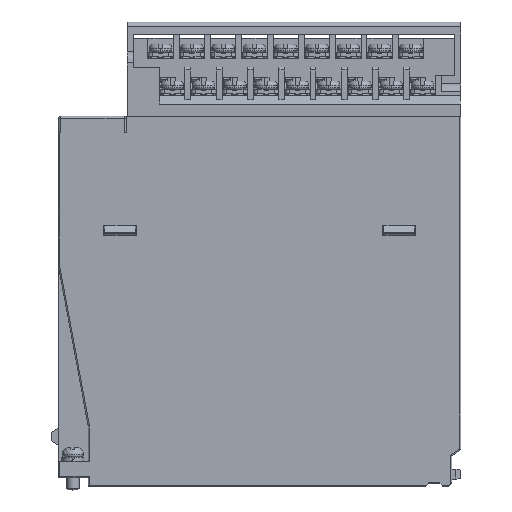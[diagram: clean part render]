
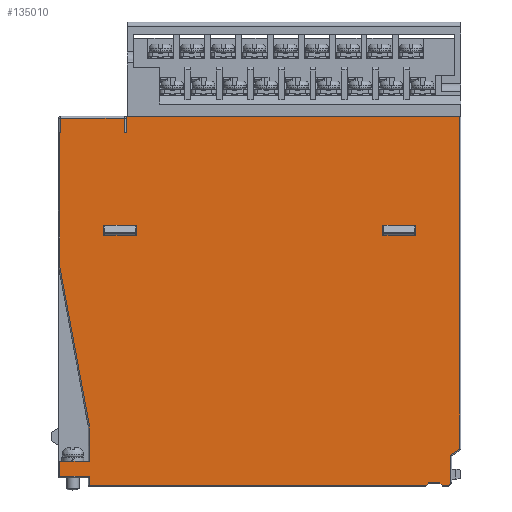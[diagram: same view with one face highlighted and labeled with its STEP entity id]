
A CAD part, top view. The second image highlights one B-rep face of the part: STEP entity #135010.
In plain terms, the highlighted planar face has unit normal (0, 0, 1).
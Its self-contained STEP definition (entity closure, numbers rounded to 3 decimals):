
#7883=DIRECTION('',(-1.,0.,0.));
#7884=VECTOR('',#7883,81.2);
#7885=CARTESIAN_POINT('',(48.7,90.,13.5));
#7886=LINE('',#7885,#7884);
#36934=DIRECTION('',(0.,1.,0.));
#36935=VECTOR('',#36934,81.041);
#36936=CARTESIAN_POINT('',(48.7,8.959,13.5));
#36937=LINE('',#36936,#36935);
#36942=DIRECTION('',(-0.826,-0.563,0.));
#36943=VECTOR('',#36942,2.663);
#36944=CARTESIAN_POINT('',(48.7,8.959,13.5));
#36945=LINE('',#36944,#36943);
#36946=DIRECTION('',(-0.707,-0.707,0.));
#36947=VECTOR('',#36946,0.707);
#36948=CARTESIAN_POINT('',(46.5,0.5,13.5));
#36949=LINE('',#36948,#36947);
#36950=DIRECTION('',(-1.,0.,0.));
#36951=VECTOR('',#36950,1.5);
#36952=CARTESIAN_POINT('',(46.,0.,13.5));
#36953=LINE('',#36952,#36951);
#36954=DIRECTION('',(-0.68,0.733,0.));
#36955=VECTOR('',#36954,0.955);
#36956=CARTESIAN_POINT('',(44.5,0.,13.5));
#36957=LINE('',#36956,#36955);
#36958=DIRECTION('',(-0.68,-0.733,0.));
#36959=VECTOR('',#36958,0.955);
#36960=CARTESIAN_POINT('',(41.15,0.7,13.5));
#36961=LINE('',#36960,#36959);
#36962=DIRECTION('',(-1.,0.,0.));
#36963=VECTOR('',#36962,82.);
#36964=CARTESIAN_POINT('',(40.5,0.,13.5));
#36965=LINE('',#36964,#36963);
#36966=DIRECTION('',(1.,0.,0.));
#36967=VECTOR('',#36966,7.2);
#36968=CARTESIAN_POINT('',(-48.7,6.,13.5));
#36969=LINE('',#36968,#36967);
#36970=DIRECTION('',(-0.183,0.983,0.));
#36971=VECTOR('',#36970,39.364);
#36972=CARTESIAN_POINT('',(-41.5,14.828,13.5));
#36973=LINE('',#36972,#36971);
#36974=DIRECTION('',(-1.,0.,0.));
#36975=VECTOR('',#36974,8.);
#36976=CARTESIAN_POINT('',(-30.,63.5,13.5));
#36977=LINE('',#36976,#36975);
#36978=DIRECTION('',(0.,-1.,0.));
#36979=VECTOR('',#36978,2.5);
#36980=CARTESIAN_POINT('',(-38.,63.5,13.5));
#36981=LINE('',#36980,#36979);
#36982=DIRECTION('',(1.,0.,0.));
#36983=VECTOR('',#36982,8.);
#36984=CARTESIAN_POINT('',(-38.,61.,13.5));
#36985=LINE('',#36984,#36983);
#36986=DIRECTION('',(0.,1.,0.));
#36987=VECTOR('',#36986,2.5);
#36988=CARTESIAN_POINT('',(-30.,61.,13.5));
#36989=LINE('',#36988,#36987);
#36990=DIRECTION('',(-1.,0.,0.));
#36991=VECTOR('',#36990,8.);
#36992=CARTESIAN_POINT('',(38.,63.5,13.5));
#36993=LINE('',#36992,#36991);
#36994=DIRECTION('',(0.,-1.,0.));
#36995=VECTOR('',#36994,2.5);
#36996=CARTESIAN_POINT('',(30.,63.5,13.5));
#36997=LINE('',#36996,#36995);
#36998=DIRECTION('',(1.,0.,0.));
#36999=VECTOR('',#36998,8.);
#37000=CARTESIAN_POINT('',(30.,61.,13.5));
#37001=LINE('',#37000,#36999);
#37002=DIRECTION('',(0.,1.,0.));
#37003=VECTOR('',#37002,2.5);
#37004=CARTESIAN_POINT('',(38.,61.,13.5));
#37005=LINE('',#37004,#37003);
#37011=DIRECTION('',(-1.,0.,0.));
#37012=VECTOR('',#37011,0.2);
#37013=CARTESIAN_POINT('',(-48.5,86.,13.5));
#37014=LINE('',#37013,#37012);
#37024=DIRECTION('',(0.,-1.,0.));
#37025=VECTOR('',#37024,3.5);
#37026=CARTESIAN_POINT('',(-48.5,89.5,13.5));
#37027=LINE('',#37026,#37025);
#37185=DIRECTION('',(0.,-1.,0.));
#37186=VECTOR('',#37185,4.);
#37187=CARTESIAN_POINT('',(-32.5,90.,13.5));
#37188=LINE('',#37187,#37186);
#37189=DIRECTION('',(0.,1.,0.));
#37190=VECTOR('',#37189,3.5);
#37191=CARTESIAN_POINT('',(-33.,86.,13.5));
#37192=LINE('',#37191,#37190);
#37202=DIRECTION('',(-1.,0.,0.));
#37203=VECTOR('',#37202,0.5);
#37204=CARTESIAN_POINT('',(-32.5,86.,13.5));
#37205=LINE('',#37204,#37203);
#37221=DIRECTION('',(-1.,0.,0.));
#37222=VECTOR('',#37221,15.5);
#37223=CARTESIAN_POINT('',(-33.,89.5,13.5));
#37224=LINE('',#37223,#37222);
#37459=DIRECTION('',(1.,0.,0.));
#37460=VECTOR('',#37459,7.2);
#37461=CARTESIAN_POINT('',(-48.7,2.3,13.5));
#37462=LINE('',#37461,#37460);
#37463=CARTESIAN_POINT('',(-41.5,2.3,13.5));
#37482=DIRECTION('',(0.,-1.,0.));
#37483=VECTOR('',#37482,3.7);
#37484=CARTESIAN_POINT('',(-48.7,6.,13.5));
#37485=LINE('',#37484,#37483);
#37486=CARTESIAN_POINT('',(-48.7,2.3,13.5));
#37577=DIRECTION('',(0.,-1.,0.));
#37578=VECTOR('',#37577,8.828);
#37579=CARTESIAN_POINT('',(-41.5,14.828,13.5));
#37580=LINE('',#37579,#37578);
#41942=DIRECTION('',(0.,-1.,0.));
#41943=VECTOR('',#41942,2.3);
#41944=CARTESIAN_POINT('',(-41.5,2.3,13.5));
#41945=LINE('',#41944,#41943);
#42081=DIRECTION('',(1.,0.,0.));
#42082=VECTOR('',#42081,2.7);
#42083=CARTESIAN_POINT('',(41.15,0.7,13.5));
#42084=LINE('',#42083,#42082);
#42099=DIRECTION('',(0.,1.,0.));
#42100=VECTOR('',#42099,6.959);
#42101=CARTESIAN_POINT('',(46.5,0.5,13.5));
#42102=LINE('',#42101,#42100);
#43709=DIRECTION('',(0.,-1.,0.));
#43710=VECTOR('',#43709,32.472);
#43711=CARTESIAN_POINT('',(-48.7,86.,13.5));
#43712=LINE('',#43711,#43710);
#43713=CARTESIAN_POINT('',(-48.7,53.528,13.5));
#72664=CARTESIAN_POINT('',(44.5,0.,13.5));
#72665=VERTEX_POINT('',#72664);
#72666=CARTESIAN_POINT('',(46.,0.,13.5));
#72667=VERTEX_POINT('',#72666);
#72669=CARTESIAN_POINT('',(-41.5,0.,13.5));
#72671=VERTEX_POINT('',#72669);
#72672=CARTESIAN_POINT('',(40.5,0.,13.5));
#72673=VERTEX_POINT('',#72672);
#73188=VERTEX_POINT('',#37463);
#73189=VERTEX_POINT('',#37486);
#73210=CARTESIAN_POINT('',(-41.5,6.,13.5));
#73211=VERTEX_POINT('',#73210);
#73212=CARTESIAN_POINT('',(-48.7,6.,13.5));
#73213=VERTEX_POINT('',#73212);
#73380=VERTEX_POINT('',#43713);
#73381=CARTESIAN_POINT('',(-41.5,14.828,13.5));
#73382=VERTEX_POINT('',#73381);
#73383=CARTESIAN_POINT('',(48.7,8.959,13.5));
#73384=CARTESIAN_POINT('',(46.5,7.459,13.5));
#73385=VERTEX_POINT('',#73383);
#73386=VERTEX_POINT('',#73384);
#73387=CARTESIAN_POINT('',(46.5,0.5,13.5));
#73388=VERTEX_POINT('',#73387);
#73389=CARTESIAN_POINT('',(43.85,0.7,13.5));
#73390=VERTEX_POINT('',#73389);
#73391=CARTESIAN_POINT('',(41.15,0.7,13.5));
#73392=VERTEX_POINT('',#73391);
#73816=CARTESIAN_POINT('',(-32.5,90.,13.5));
#73817=CARTESIAN_POINT('',(-32.5,86.,13.5));
#73818=VERTEX_POINT('',#73816);
#73819=VERTEX_POINT('',#73817);
#73820=CARTESIAN_POINT('',(48.7,90.,13.5));
#73821=VERTEX_POINT('',#73820);
#73822=CARTESIAN_POINT('',(38.,63.5,13.5));
#73823=CARTESIAN_POINT('',(30.,63.5,13.5));
#73824=VERTEX_POINT('',#73822);
#73825=VERTEX_POINT('',#73823);
#73826=CARTESIAN_POINT('',(30.,61.,13.5));
#73827=VERTEX_POINT('',#73826);
#73828=CARTESIAN_POINT('',(38.,61.,13.5));
#73829=VERTEX_POINT('',#73828);
#73830=CARTESIAN_POINT('',(-30.,63.5,13.5));
#73831=CARTESIAN_POINT('',(-38.,63.5,13.5));
#73832=VERTEX_POINT('',#73830);
#73833=VERTEX_POINT('',#73831);
#73834=CARTESIAN_POINT('',(-38.,61.,13.5));
#73835=VERTEX_POINT('',#73834);
#73836=CARTESIAN_POINT('',(-30.,61.,13.5));
#73837=VERTEX_POINT('',#73836);
#73960=CARTESIAN_POINT('',(-48.7,86.,13.5));
#73962=VERTEX_POINT('',#73960);
#74208=CARTESIAN_POINT('',(-33.,89.5,13.5));
#74209=CARTESIAN_POINT('',(-48.5,89.5,13.5));
#74210=VERTEX_POINT('',#74208);
#74211=VERTEX_POINT('',#74209);
#74219=CARTESIAN_POINT('',(-33.,86.,13.5));
#74221=VERTEX_POINT('',#74219);
#74222=CARTESIAN_POINT('',(-48.5,86.,13.5));
#74224=VERTEX_POINT('',#74222);
#134939=CARTESIAN_POINT('',(0.,0.,13.5));
#134940=DIRECTION('',(0.,0.,1.));
#134941=DIRECTION('',(1.,0.,0.));
#134942=AXIS2_PLACEMENT_3D('',#134939,#134940,#134941);
#134943=PLANE('',#134942);
#134945=ORIENTED_EDGE('',*,*,#134944,.F.);
#134947=ORIENTED_EDGE('',*,*,#134946,.F.);
#134949=ORIENTED_EDGE('',*,*,#134948,.F.);
#134951=ORIENTED_EDGE('',*,*,#134950,.F.);
#134953=ORIENTED_EDGE('',*,*,#134952,.F.);
#134955=ORIENTED_EDGE('',*,*,#134954,.F.);
#134956=ORIENTED_EDGE('',*,*,#101671,.F.);
#134957=ORIENTED_EDGE('',*,*,#134930,.F.);
#134959=ORIENTED_EDGE('',*,*,#134958,.T.);
#134961=ORIENTED_EDGE('',*,*,#134960,.F.);
#134963=ORIENTED_EDGE('',*,*,#134962,.T.);
#134965=ORIENTED_EDGE('',*,*,#134964,.T.);
#134967=ORIENTED_EDGE('',*,*,#134966,.T.);
#134969=ORIENTED_EDGE('',*,*,#134968,.F.);
#134971=ORIENTED_EDGE('',*,*,#134970,.T.);
#134973=ORIENTED_EDGE('',*,*,#134972,.T.);
#134975=ORIENTED_EDGE('',*,*,#134974,.F.);
#134977=ORIENTED_EDGE('',*,*,#134976,.F.);
#134979=ORIENTED_EDGE('',*,*,#134978,.F.);
#134981=ORIENTED_EDGE('',*,*,#134980,.T.);
#134983=ORIENTED_EDGE('',*,*,#134982,.F.);
#134985=ORIENTED_EDGE('',*,*,#134984,.T.);
#134987=ORIENTED_EDGE('',*,*,#134986,.F.);
#134988=EDGE_LOOP('',(#134945,#134947,#134949,#134951,#134953,#134955,#134956,
#134957,#134959,#134961,#134963,#134965,#134967,#134969,#134971,#134973,#134975,
#134977,#134979,#134981,#134983,#134985,#134987));
#134989=FACE_OUTER_BOUND('',#134988,.F.);
#134991=ORIENTED_EDGE('',*,*,#134990,.T.);
#134993=ORIENTED_EDGE('',*,*,#134992,.T.);
#134995=ORIENTED_EDGE('',*,*,#134994,.T.);
#134997=ORIENTED_EDGE('',*,*,#134996,.T.);
#134998=EDGE_LOOP('',(#134991,#134993,#134995,#134997));
#134999=FACE_BOUND('',#134998,.F.);
#135001=ORIENTED_EDGE('',*,*,#135000,.T.);
#135003=ORIENTED_EDGE('',*,*,#135002,.T.);
#135005=ORIENTED_EDGE('',*,*,#135004,.T.);
#135007=ORIENTED_EDGE('',*,*,#135006,.T.);
#135008=EDGE_LOOP('',(#135001,#135003,#135005,#135007));
#135009=FACE_BOUND('',#135008,.F.);
#135010=ADVANCED_FACE('',(#134989,#134999,#135009),#134943,.T.);
#101671=EDGE_CURVE('',#73821,#73818,#7886,.T.);
#134930=EDGE_CURVE('',#73385,#73821,#36937,.T.);
#134944=EDGE_CURVE('',#74224,#73962,#37014,.T.);
#134946=EDGE_CURVE('',#74211,#74224,#37027,.T.);
#134948=EDGE_CURVE('',#74210,#74211,#37224,.T.);
#134950=EDGE_CURVE('',#74221,#74210,#37192,.T.);
#134952=EDGE_CURVE('',#73819,#74221,#37205,.T.);
#134954=EDGE_CURVE('',#73818,#73819,#37188,.T.);
#134958=EDGE_CURVE('',#73385,#73386,#36945,.T.);
#134960=EDGE_CURVE('',#73388,#73386,#42102,.T.);
#134962=EDGE_CURVE('',#73388,#72667,#36949,.T.);
#134964=EDGE_CURVE('',#72667,#72665,#36953,.T.);
#134966=EDGE_CURVE('',#72665,#73390,#36957,.T.);
#134968=EDGE_CURVE('',#73392,#73390,#42084,.T.);
#134970=EDGE_CURVE('',#73392,#72673,#36961,.T.);
#134972=EDGE_CURVE('',#72673,#72671,#36965,.T.);
#134974=EDGE_CURVE('',#73188,#72671,#41945,.T.);
#134976=EDGE_CURVE('',#73189,#73188,#37462,.T.);
#134978=EDGE_CURVE('',#73213,#73189,#37485,.T.);
#134980=EDGE_CURVE('',#73213,#73211,#36969,.T.);
#134982=EDGE_CURVE('',#73382,#73211,#37580,.T.);
#134984=EDGE_CURVE('',#73382,#73380,#36973,.T.);
#134986=EDGE_CURVE('',#73962,#73380,#43712,.T.);
#134990=EDGE_CURVE('',#73832,#73833,#36977,.T.);
#134992=EDGE_CURVE('',#73833,#73835,#36981,.T.);
#134994=EDGE_CURVE('',#73835,#73837,#36985,.T.);
#134996=EDGE_CURVE('',#73837,#73832,#36989,.T.);
#135000=EDGE_CURVE('',#73824,#73825,#36993,.T.);
#135002=EDGE_CURVE('',#73825,#73827,#36997,.T.);
#135004=EDGE_CURVE('',#73827,#73829,#37001,.T.);
#135006=EDGE_CURVE('',#73829,#73824,#37005,.T.);
